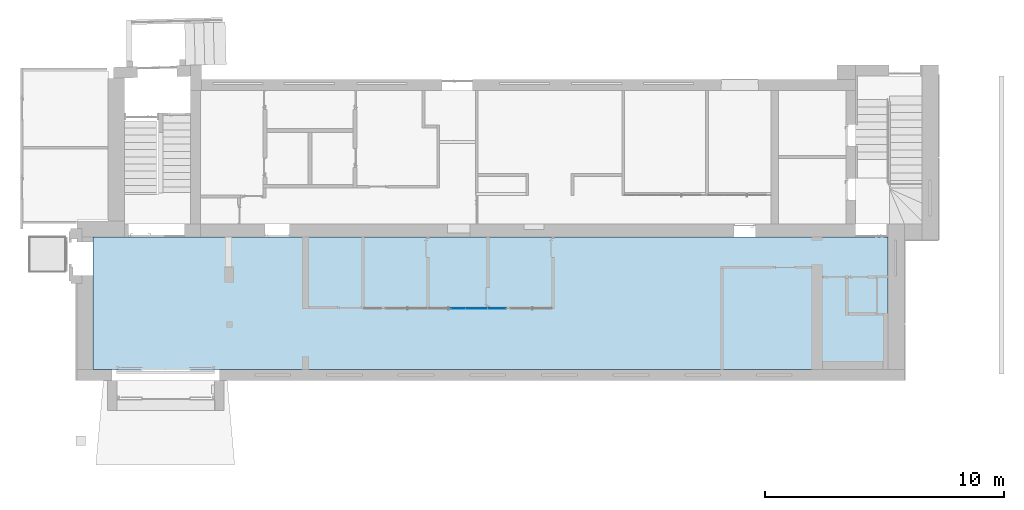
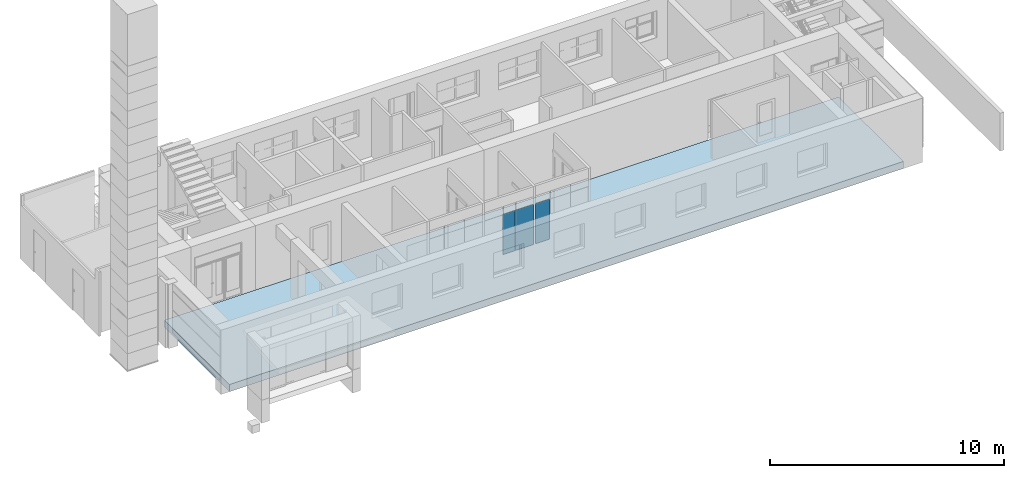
# One storey, part 9 of 49: 3 plates, 1 slab, 2 elements without a shape of their own.
"""IFC2X3 building model written with IfcOpenShell, lengths in millimetres."""

from ifc_helpers import new_model, entity, si_unit, converted_unit, derived_unit, direction, frame, frame_2d, origin, origin_2d_with_axis, place, context, subcontext, project, spatial, rectangle, extrude, source, transform, mapped, material, layer, layer_set, layer_usage, type_object, type_shapes, element, aggregate, save


model = new_model("IFC2X3")

# Units and contexts
model_context = context("Model", 3, precision=0.01, world=origin(), true_north=direction((6.12303176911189e-17, 1.0)))
body_context = subcontext(model_context, "Body", "Model", "MODEL_VIEW")
ifc_project = project(units=[si_unit("LENGTHUNIT", "METRE", prefix="MILLI"), si_unit("AREAUNIT", "SQUARE_METRE"), si_unit("VOLUMEUNIT", "CUBIC_METRE"), converted_unit("PLANEANGLEUNIT", "DEGREE", entity("IfcRatioMeasure", 0.0174532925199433), si_unit("PLANEANGLEUNIT", "RADIAN"), dimensions=[0, 0, 0, 0, 0, 0, 0]), si_unit("MASSUNIT", "GRAM", prefix="KILO"), derived_unit("MASSDENSITYUNIT", [(si_unit("MASSUNIT", "GRAM", prefix="KILO"), 1), (si_unit("LENGTHUNIT", "METRE"), -3)]), si_unit("TIMEUNIT", "SECOND"), si_unit("FREQUENCYUNIT", "HERTZ"), si_unit("THERMODYNAMICTEMPERATUREUNIT", "DEGREE_CELSIUS"), derived_unit("THERMALTRANSMITTANCEUNIT", [(si_unit("MASSUNIT", "GRAM", prefix="KILO"), 1), (si_unit("THERMODYNAMICTEMPERATUREUNIT", "KELVIN"), -1), (si_unit("TIMEUNIT", "SECOND"), -3)]), derived_unit("VOLUMETRICFLOWRATEUNIT", [(si_unit("LENGTHUNIT", "METRE"), 3), (si_unit("TIMEUNIT", "SECOND"), -1)]), si_unit("ELECTRICCURRENTUNIT", "AMPERE"), si_unit("ELECTRICVOLTAGEUNIT", "VOLT"), si_unit("POWERUNIT", "WATT"), si_unit("FORCEUNIT", "NEWTON", prefix="KILO"), si_unit("ILLUMINANCEUNIT", "LUX"), si_unit("LUMINOUSFLUXUNIT", "LUMEN"), si_unit("LUMINOUSINTENSITYUNIT", "CANDELA"), derived_unit("USERDEFINED", [(si_unit("MASSUNIT", "GRAM", prefix="KILO"), -1), (si_unit("LENGTHUNIT", "METRE"), -2), (si_unit("TIMEUNIT", "SECOND"), 3), (si_unit("LUMINOUSFLUXUNIT", "LUMEN"), 1)]), derived_unit("LINEARVELOCITYUNIT", [(si_unit("LENGTHUNIT", "METRE"), 1), (si_unit("TIMEUNIT", "SECOND"), -1)]), si_unit("PRESSUREUNIT", "PASCAL"), derived_unit("USERDEFINED", [(si_unit("LENGTHUNIT", "METRE"), -2), (si_unit("MASSUNIT", "GRAM", prefix="KILO"), 1), (si_unit("TIMEUNIT", "SECOND"), -2)])], contexts=[model_context])

# Site, building, storey
site_placement = place(None, frame((-151.875543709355, 2715.0, 0.0)))
site = spatial("IfcSite", under=ifc_project, at=site_placement, Name="Surface", CompositionType="ELEMENT")
building_placement = place(site_placement, origin())
building = spatial("IfcBuilding", under=site, at=building_placement, CompositionType="ELEMENT")
storey_placement = place(building_placement, origin())
storey = spatial("IfcBuildingStorey", under=building, at=storey_placement, Name="1 korrus", CompositionType="ELEMENT", Elevation=3.0969999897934e-10)

# Curtain wall, plate
curtain_wall_type_1 = type_object("IfcCurtainWallType", Name="Curtain Wall:Klaassein KLS-01", PredefinedType="NOTDEFINED")
curtain_wall_1_placement = place(storey_placement, origin())
curtain_wall_1 = element("IfcCurtainWall", 1, at=curtain_wall_1_placement, inside=storey, type_object=curtain_wall_type_1, Name="Curtain Wall:Klaassein KLS-01", ObjectType="Curtain Wall:Klaassein KLS-01")
ifc_material_1 = material(Name="<Unnamed>")
ifc_layer_1 = layer(ifc_material_1, 20.0)
ifc_layer_set_1 = layer_set([ifc_layer_1], Name="Curtain Wall:Klaassein KLS-01")
ifc_layer_usage_1 = layer_usage(ifc_layer_set_1, "AXIS3", "POSITIVE", 0.0)
plate_type_1 = type_object("IfcPlateType", Name="Glazed", PredefinedType="CURTAIN_PANEL", material=ifc_layer_set_1)
shared_shape_1 = source(origin(), body_context, "Body", "SweptSolid", [
    extrude(rectangle(XDim=20.0, YDim=691.999999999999, at=origin_2d_with_axis()), frame((0.0, 0.0, 0.0), z_axis=(0.0, 0.0, 1.0), x_axis=(0.0, 1.0, 0.0)), (0.0, 0.0, 1.0), 2090.0),
])
type_shapes(plate_type_1, [shared_shape_1])
plate_1_placement = place(curtain_wall_1_placement, frame((17399.2710850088, 3017.5, 0.0)))
plate_1 = element("IfcPlate", 2, at=plate_1_placement, type_object=plate_type_1, material=ifc_layer_usage_1, Name="System Panel:Glazed", ObjectType="Glazed", context=body_context, shape_type="MappedRepresentation", body=[
    mapped(shared_shape_1, transform((0.0, 0.0, 0.0), scale=1.0)),
])
aggregate(curtain_wall_1, [plate_1])

# Curtain wall, plates
curtain_wall_type_2 = type_object("IfcCurtainWallType", Name="Curtain Wall:Klaassein KLS-02", PredefinedType="NOTDEFINED")
curtain_wall_2_placement = place(storey_placement, origin())
curtain_wall_2 = element("IfcCurtainWall", 3, at=curtain_wall_2_placement, inside=storey, type_object=curtain_wall_type_2, Name="Curtain Wall:Klaassein KLS-02", ObjectType="Curtain Wall:Klaassein KLS-02")
ifc_layer_usage_2 = layer_usage(ifc_layer_set_1, "AXIS3", "POSITIVE", 0.0)
plate_type_2 = type_object("IfcPlateType", Name="Glazed", PredefinedType="CURTAIN_PANEL", material=ifc_layer_set_1)
shared_shape_2 = source(origin(), body_context, "Body", "SweptSolid", [
    extrude(rectangle(XDim=20.0, YDim=880.0000003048, at=origin_2d_with_axis()), frame((0.0, 0.0, 0.0), z_axis=(0.0, 0.0, 1.0), x_axis=(0.0, 1.0, 0.0)), (0.0, 0.0, 1.0), 2090.0),
])
type_shapes(plate_type_2, [shared_shape_2])
plate_2_placement = place(curtain_wall_2_placement, frame((16498.2710848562, 3017.50000000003, 0.0), z_axis=(0.0, 0.0, 1.0), x_axis=(-1.0, 0.0, 0.0)))
plate_2 = element("IfcPlate", 4, at=plate_2_placement, type_object=plate_type_2, material=ifc_layer_usage_2, Name="System Panel:Glazed", ObjectType="Glazed", context=body_context, shape_type="MappedRepresentation", body=[
    mapped(shared_shape_2, transform((0.0, 0.0, 0.0), scale=1.0)),
])
ifc_layer_usage_3 = layer_usage(ifc_layer_set_1, "AXIS3", "POSITIVE", 0.0)
plate_type_3 = type_object("IfcPlateType", Name="Glazed", PredefinedType="CURTAIN_PANEL", material=ifc_layer_set_1)
shared_shape_3 = source(origin(), body_context, "Body", "SweptSolid", [
    extrude(rectangle(XDim=20.0, YDim=590.0, at=origin_2d_with_axis()), frame((0.0, 0.0, 0.0), z_axis=(0.0, 0.0, 1.0), x_axis=(0.0, 1.0, 0.0)), (0.0, 0.0, 1.0), 2090.0),
])
type_shapes(plate_type_3, [shared_shape_3])
plate_3_placement = place(curtain_wall_2_placement, frame((15743.2710847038, 3017.50000000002, 0.0), z_axis=(0.0, 0.0, 1.0), x_axis=(-1.0, 0.0, 0.0)))
plate_3 = element("IfcPlate", 5, at=plate_3_placement, type_object=plate_type_3, material=ifc_layer_usage_3, Name="System Panel:Glazed", ObjectType="Glazed", context=body_context, shape_type="MappedRepresentation", body=[
    mapped(shared_shape_3, transform((0.0, 0.0, 0.0), scale=1.0)),
])
aggregate(curtain_wall_2, [plate_2, plate_3])

# Slab
ifc_material_2 = material(Name="Viimistlus_kelder")
ifc_layer_2 = layer(ifc_material_2, 20.0)
ifc_material_3 = material(Name="Betoon")
ifc_layer_3 = layer(ifc_material_3, 100.0)
ifc_material_4 = material(Name="__Soojustus EPS")
ifc_layer_4 = layer(ifc_material_4, 150.0)
ifc_material_5 = material(Name="Aluspinnas")
ifc_layer_5 = layer(ifc_material_5, 100.0)
ifc_layer_set_2 = layer_set([ifc_layer_2, ifc_layer_3, ifc_layer_4, ifc_layer_5], Name="Floor:P-1_Esimese korruse põrand")
ifc_layer_usage_4 = layer_usage(ifc_layer_set_2, "AXIS3", "POSITIVE", 0.0)
slab_placement = place(storey_placement, origin())
element("IfcSlab", 6, at=slab_placement, inside=storey, material=ifc_layer_usage_4, Name="Floor:P-1_Esimese korruse põrand", ObjectType="Floor:P-1_Esimese korruse põrand", PredefinedType="FLOOR", context=body_context, shape_type="SweptSolid", body=[
    extrude(rectangle(XDim=5550.09536743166, YDim=33281.7407226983, at=frame_2d((-2.63753463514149e-11, 5.45696821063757e-12), x_axis=(1.0, 0.0))), frame((17100.7459068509, 3234.95231628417, 0.0), z_axis=(0.0, 0.0, -1.0), x_axis=(0.0, 1.0, 0.0)), (0.0, 0.0, 1.0), 370.0),
])

save(model, "model.ifc")
